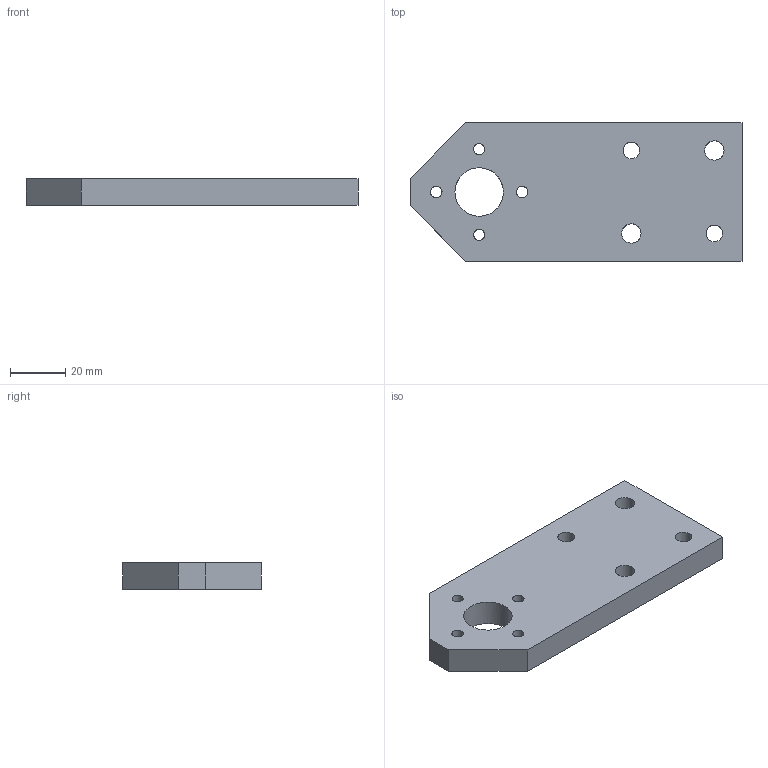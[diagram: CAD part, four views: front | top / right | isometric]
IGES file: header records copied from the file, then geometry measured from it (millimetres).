
Global section: file name: 27.20; native system: Autodesk Inventor 2014; preprocessor: unknown; author: AP; date: 20160506.092447; units: millimetre
Bounding box: 120 x 50 x 9.5 mm (x, y, z)
Volume: 49152.3 mm3; surface area: 15140.1 mm2
Topology: 1 solids, 1 shells, 17 faces, 54 edges, 39 vertices
Faces by surface type: bspline 17
